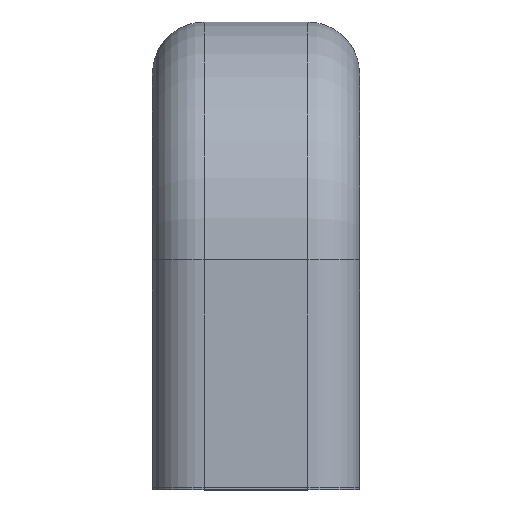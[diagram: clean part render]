
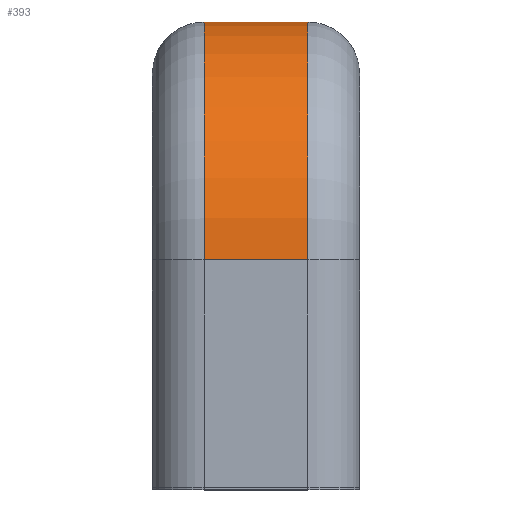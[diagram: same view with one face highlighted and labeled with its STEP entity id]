
A CAD part, top view. The second image highlights one B-rep face of the part: STEP entity #393.
In plain terms, the highlighted cylindrical face has radius 23 mm (diameter 46 mm), a partial arc.
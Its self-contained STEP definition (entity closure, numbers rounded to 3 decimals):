
#2 = CIRCLE ( 'NONE', #225, 23. ) ;
#8 = CARTESIAN_POINT ( 'NONE',  ( 5., 22., 65. ) ) ;
#17 = VERTEX_POINT ( 'NONE', #581 ) ;
#18 = EDGE_CURVE ( 'NONE', #673, #17, #401, .T. ) ;
#34 = DIRECTION ( 'NONE',  ( -1., 0., 0. ) ) ;
#69 = CARTESIAN_POINT ( 'NONE',  ( -5., 22., 42. ) ) ;
#73 = FACE_OUTER_BOUND ( 'NONE', #511, .T. ) ;
#96 = DIRECTION ( 'NONE',  ( 0., 0., -1. ) ) ;
#97 = ORIENTED_EDGE ( 'NONE', *, *, #18, .F. ) ;
#99 = DIRECTION ( 'NONE',  ( 1., 0., 0. ) ) ;
#115 = AXIS2_PLACEMENT_3D ( 'NONE', #179, #628, #687 ) ;
#146 = DIRECTION ( 'NONE',  ( -1., 0., 0. ) ) ;
#154 = VERTEX_POINT ( 'NONE', #156 ) ;
#156 = CARTESIAN_POINT ( 'NONE',  ( -5., 45., 42. ) ) ;
#179 = CARTESIAN_POINT ( 'NONE',  ( 0., 22., 42. ) ) ;
#196 = LINE ( 'NONE', #301, #490 ) ;
#197 = CARTESIAN_POINT ( 'NONE',  ( 5., 22., 42. ) ) ;
#202 = EDGE_CURVE ( 'NONE', #461, #673, #488, .T. ) ;
#225 = AXIS2_PLACEMENT_3D ( 'NONE', #69, #232, #505 ) ;
#232 = DIRECTION ( 'NONE',  ( 1., 0., 0. ) ) ;
#267 = ORIENTED_EDGE ( 'NONE', *, *, #497, .T. ) ;
#301 = CARTESIAN_POINT ( 'NONE',  ( -5., 45., 42. ) ) ;
#393 = ADVANCED_FACE ( 'NONE', ( #73 ), #579, .T. ) ;
#401 = LINE ( 'NONE', #519, #465 ) ;
#421 = ORIENTED_EDGE ( 'NONE', *, *, #202, .F. ) ;
#461 = VERTEX_POINT ( 'NONE', #462 ) ;
#462 = CARTESIAN_POINT ( 'NONE',  ( 5., 45., 42. ) ) ;
#465 = VECTOR ( 'NONE', #34, 1000. ) ;
#470 = ORIENTED_EDGE ( 'NONE', *, *, #557, .T. ) ;
#488 = CIRCLE ( 'NONE', #693, 23. ) ;
#490 = VECTOR ( 'NONE', #146, 1000. ) ;
#497 = EDGE_CURVE ( 'NONE', #154, #17, #2, .T. ) ;
#505 = DIRECTION ( 'NONE',  ( 0., 0., -1. ) ) ;
#511 = EDGE_LOOP ( 'NONE', ( #470, #267, #97, #421 ) ) ;
#519 = CARTESIAN_POINT ( 'NONE',  ( -5., 22., 65. ) ) ;
#557 = EDGE_CURVE ( 'NONE', #461, #154, #196, .T. ) ;
#579 = CYLINDRICAL_SURFACE ( 'NONE', #115, 23. ) ;
#581 = CARTESIAN_POINT ( 'NONE',  ( -5., 22., 65. ) ) ;
#628 = DIRECTION ( 'NONE',  ( 1., 0., 0. ) ) ;
#673 = VERTEX_POINT ( 'NONE', #8 ) ;
#687 = DIRECTION ( 'NONE',  ( 0., 0., -1. ) ) ;
#693 = AXIS2_PLACEMENT_3D ( 'NONE', #197, #99, #96 ) ;
